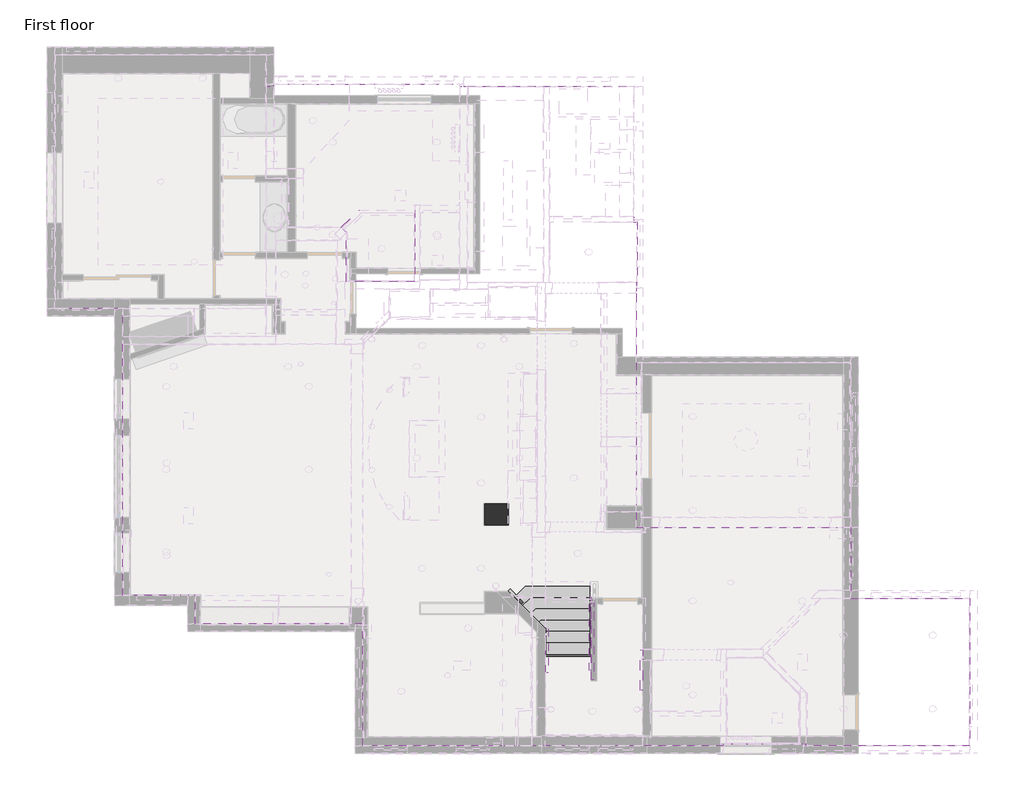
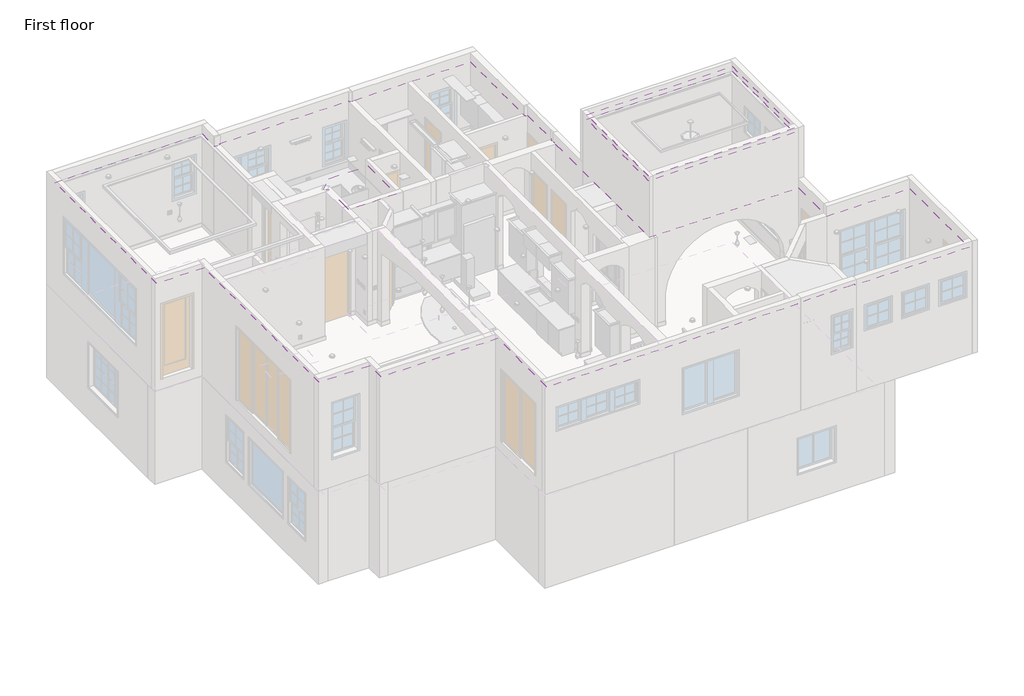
# One storey, part 10 of 14: 5 railings, 4 coverings, 1 column, 1 stair flight.
"""IFC4 building model written with IfcOpenShell, lengths in millimetres."""

from ifc_helpers import new_model, si_unit, frame, origin, place, context, project, spatial, polyline, circle_curve, outline, extrude, faceted_brep, transform, mapped, element, save
from ifc_brep_helpers import plane_surface, revolved_surface, advanced_brep
from components import railing_4_8abb609a, railing_4_2_3586e14e, railing_4_2_93178abc, railing_4_3_2b835bbb, stair_flight_4c4e7644

model = new_model("IFC4")

# Units and contexts
model_context = context("Model", 3, world=origin())
ifc_project = project(units=[si_unit("LENGTHUNIT", "METRE", prefix="MILLI")], contexts=[model_context])

# Site, building, storey
site = spatial("IfcSite", under=ifc_project)
building = spatial("IfcBuilding", under=site)
storey = spatial("IfcBuildingStorey", under=building, Name="First floor", Elevation=0.0)

# Column
placement = place(None, origin())
element("IfcColumn", 1, ObjectType="M_Rectangular Column : 475 x 610mm", at=placement, inside=storey, context=model_context, shape_type="Brep", body=[
    faceted_brep([(3302.0, 5397.5, 2565.4), (2794.0, 5397.5, 2565.4), (2794.0, 4940.3, 2565.4), (3302.0, 4940.3, 2565.4), (3302.0, 5397.5, 0.0), (3302.0, 4940.3, 0.0), (2794.0, 4940.3, 0.0), (2794.0, 5397.5, 0.0), (3302.0, 5397.5, 127.0), (2794.0, 5397.5, 127.0), (2794.0, 4940.3, 127.0), (3302.0, 4940.3, 127.0)], [[[0, 1, 2, 3]], [[4, 5, 6, 7]], [[1, 0, 8, 4, 7, 9]], [[2, 1, 9, 7, 6, 10]], [[3, 2, 10, 6, 5, 11]], [[0, 3, 11, 5, 4, 8]]]),
])

# Coverings
element("IfcCovering", 2, ObjectType="Ceiling_12\"", at=placement, inside=storey, context=model_context, shape_type="AdvancedBrep", body=[
    advanced_brep(
    [(-1924.05, 15113.0, 6604.0), (-6496.05, 15113.0, 6604.0), (-6496.05, 9626.6, 6604.0), (-5029.2, 9626.6, 6604.0), (-5029.2, 3416.3, 6604.0), (-3454.4, 3416.3, 6604.0), (-3454.4, 2806.7, 6604.0), (165.1, 2806.7, 6604.0), (165.1, 165.1, 6604.0), (7956.55, 165.1, 6604.0), (7956.55, 203.2, 6604.0), (9683.75, 203.2, 6604.0), (9753.6, 203.2, 6604.0), (9753.6, 165.1, 6604.0), (13284.2, 165.1, 6604.0), (13284.2, 3359.15, 6604.0), (10706.1, 3359.15, 6604.0), (10706.1, 4889.5001027, 6604.0), (6070.5999991, 4889.5001027, 6604.0), (6070.6, 8458.2, 6604.0), (6070.6, 10064.6447939, 6604.0), (6070.6, 10185.2947939, 6604.0), (6096.0, 10185.2947939, 6604.0), (6096.0, 11493.3947939, 6604.0), (6019.8, 11493.3947939, 6604.0), (6019.8, 11550.5447939, 6604.0), (6019.8, 14427.0947939, 6604.0), (2343.15, 14427.0947939, 6604.0), (2260.6, 14427.0947939, 6604.0), (2260.6, 14477.8947939, 6604.0), (-1758.95, 14477.8947939, 6604.0), (-1758.95, 14427.0947939, 6604.0), (-1924.05, 14427.0947939, 6604.0), (-1924.05, 14477.8947939, 6604.0), (5083.0421751, 12508.6027641, 6604.0), (4778.2421751, 12508.6027641, 6604.0), (4778.2421751, 13727.8027641, 6604.0), (5083.0421751, 13727.8027641, 6604.0), (-6496.05, 15113.0, 6299.2), (-1924.05, 15113.0, 6299.2), (-1924.05, 14427.0947939, 6299.2), (-1758.95, 14427.0947939, 6299.2), (-1758.95, 14477.8947939, 6299.2), (2260.6, 14477.8947939, 6299.2), (2260.6, 14427.0947939, 6299.2), (2343.15, 14427.0947939, 6299.2), (2425.7, 14427.0947939, 6299.2), (6019.8, 14427.0947939, 6299.2), (6019.8, 11607.6947939, 6299.2), (6019.8, 11550.5447939, 6299.2), (6019.8, 11493.3947939, 6299.2), (6096.0, 11493.3947939, 6299.2), (6096.0, 10185.2947939, 6299.2), (6070.6, 10185.2947939, 6299.2), (6070.6, 10064.6447939, 6299.2), (6070.6, 9943.9947939, 6299.2), (6070.6, 8458.2, 6299.2), (6070.5999991, 4889.5001027, 6299.2), (10706.1, 4889.5001027, 6299.2), (10706.1, 3359.15, 6299.2), (13284.2, 3359.15, 6299.2), (13284.2, 165.1, 6299.2), (9753.6, 165.1, 6299.2), (9753.6, 203.2, 6299.2), (9683.75, 203.2, 6299.2), (9613.9, 203.2, 6299.2), (7956.55, 203.2, 6299.2), (7956.55, 165.1, 6299.2), (165.1, 165.1, 6299.2), (165.1, 2806.7, 6299.2), (-3454.4, 2806.7, 6299.2), (-3454.4, 3416.3, 6299.2), (-5029.2, 3416.3, 6299.2), (-5029.2, 9626.6, 6299.2), (-6496.05, 9626.6, 6299.2), (4778.2421751, 12508.6027641, 6299.2), (5083.0421751, 12508.6027641, 6299.2), (5083.0421751, 13727.8027641, 6299.2), (4778.2421751, 13727.8027641, 6299.2), (5181.6, 914.4009876, 6299.2), (5054.6, 914.3990124, 6299.2), (7213.6, 1460.4999136, 6299.2), (7086.6, 1460.5000864, 6299.2), (10617.2, 965.1995088, 6299.2), (10490.2, 965.2004912, 6299.2), (10490.2, 2559.05, 6299.2), (10617.2, 2559.05, 6299.2), (12420.6, 2559.05, 6299.2), (12547.6, 2559.05, 6299.2), (4978.4, 10845.6947939, 6299.2), (5105.4, 10845.6947939, 6299.2), (12420.6, 965.2, 6299.2), (12547.6, 965.2, 6299.2), (6654.8, 4432.3001027, 6299.2), (6654.8, 2755.9, 6299.2), (8697.4455906, 2755.9, 6299.2), (9639.3, 3703.1577939, 6299.2), (9639.3, 4432.3001027, 6299.2), (5105.4, 5219.5947939, 6299.2), (5105.4, 9728.0947939, 6299.2), (4318.0, 9728.0947939, 6299.2), (4318.0, 5219.5947939, 6299.2), (-5556.25, 14173.2, 6299.2), (-5556.25, 10566.4, 6299.2), (-2863.85, 10566.4, 6299.2), (-2863.85, 14173.2, 6299.2), (-5060.95, 14605.0, 6299.2), (-5187.95, 14605.0, 6299.2), (-3232.15, 14605.0, 6299.2), (-3359.15, 14605.0, 6299.2), (-857.25, 13690.4947939, 6299.2), (-984.25, 13690.4947939, 6299.2), (1841.5, 11176.0, 6299.2), (1714.5, 11176.0, 6299.2), (3721.1, 11353.6947939, 6299.2), (3238.5, 11353.6947939, 6299.2), (3238.5, 10591.6947939, 6299.2), (3721.1, 10591.6947939, 6299.2), (4778.2421751, 12508.6027641, 6591.3), (5083.0421751, 12508.6027641, 6591.3), (5083.0421751, 13727.8027641, 6591.3), (4778.2421751, 13727.8027641, 6591.3), (5054.6, 914.3990124, 6337.3), (5181.6, 914.4009876, 6337.3), (7086.6, 1460.5000864, 6337.3), (7213.6, 1460.4999136, 6337.3), (10490.2, 965.2004912, 6337.3), (10617.2, 965.1995088, 6337.3), (10617.2, 2559.05, 6337.3), (10490.2, 2559.05, 6337.3), (12547.6, 2559.05, 6337.3), (12420.6, 2559.05, 6337.3), (5105.4, 10845.6947939, 6337.3), (4978.4, 10845.6947939, 6337.3), (12547.6, 965.2, 6337.3), (12420.6, 965.2, 6337.3), (6654.8, 4432.3001027, 6451.6), (9639.3, 4432.3001027, 6451.6), (9639.3, 3703.1577939, 6451.6), (8697.4455906, 2755.9, 6451.6), (6654.8, 2755.9, 6451.6), (5105.4, 5219.5947939, 6451.6), (4318.0, 5219.5947939, 6451.6), (4318.0, 9728.0947939, 6451.6), (5105.4, 9728.0947939, 6451.6), (4660.8951375, 5956.2153351, 6451.6), (4787.8951375, 5956.2116994, 6451.6), (4660.8867747, 8864.4849777, 6451.6), (4787.8867746, 8864.481342, 6451.6), (4787.8951375, 5956.2116994, 6489.7), (4660.8951375, 5956.2153351, 6489.7), (4787.8867746, 8864.481342, 6489.7), (4660.8867747, 8864.4849777, 6489.7), (-5556.25, 14173.2, 6451.6), (-2863.85, 14173.2, 6451.6), (-2863.85, 10566.4, 6451.6), (-5556.25, 10566.4, 6451.6), (-5187.95, 14605.0, 6337.3), (-5060.95, 14605.0, 6337.3), (-3359.15, 14605.0, 6337.3), (-3232.15, 14605.0, 6337.3), (-984.25, 13690.4947939, 6337.3), (-857.25, 13690.4947939, 6337.3), (1714.5, 11176.0, 6337.3), (1841.5, 11176.0, 6337.3), (3238.5, 11353.6947939, 6400.8), (3721.1, 11353.6947939, 6400.8), (3721.1, 10591.6947939, 6400.8), (3238.5, 10591.6947939, 6400.8)],
    [
        (0, 1),
        (1, 2),
        (2, 3),
        (3, 4),
        (4, 5),
        (5, 6),
        (6, 7),
        (7, 8),
        (8, 9),
        (9, 10),
        (10, 11),
        (11, 12),
        (12, 13),
        (13, 14),
        (14, 15),
        (15, 16),
        (16, 17),
        (17, 18),
        (18, 19),
        (19, 20),
        (20, 21),
        (21, 22),
        (22, 23),
        (23, 24),
        (24, 25),
        (25, 26),
        (26, 27),
        (27, 28),
        (28, 29),
        (29, 30),
        (30, 31),
        (31, 32),
        (32, 33),
        (33, 0),
        (34, 35),
        (35, 36),
        (36, 37),
        (37, 34),
        (38, 39),
        (39, 40),
        (40, 41),
        (41, 42),
        (42, 43),
        (43, 44),
        (44, 45),
        (45, 46),
        (46, 47),
        (47, 48),
        (48, 49),
        (49, 50),
        (50, 51),
        (51, 52),
        (52, 53),
        (53, 54),
        (54, 55),
        (55, 56),
        (56, 57),
        (57, 58),
        (58, 59),
        (59, 60),
        (60, 61),
        (61, 62),
        (62, 63),
        (63, 64),
        (64, 65),
        (65, 66),
        (66, 67),
        (67, 68),
        (68, 69),
        (69, 70),
        (70, 71),
        (71, 72),
        (72, 73),
        (73, 74),
        (74, 38),
        (75, 76),
        (76, 77),
        (77, 78),
        (78, 75),
        (79, 80, circle_curve(frame((5118.1, 914.4, 6299.2), z_axis=(0.0, 0.0, 1.0), x_axis=(0.999999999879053, 1.555294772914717e-05, 0.0)), 63.5)),
        (80, 79, circle_curve(frame((5118.1, 914.4, 6299.2), z_axis=(0.0, 0.0, 1.0), x_axis=(0.999999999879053, 1.555294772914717e-05, 0.0)), 63.5)),
        (81, 82, circle_curve(frame((7150.1, 1460.5, 6299.2), z_axis=(0.0, 0.0, 1.0), x_axis=(0.9999999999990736, -1.3611479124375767e-06, 0.0)), 63.5)),
        (82, 81, circle_curve(frame((7150.1, 1460.5, 6299.2), z_axis=(0.0, 0.0, 1.0), x_axis=(0.9999999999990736, -1.3611479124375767e-06, 0.0)), 63.5)),
        (83, 84, circle_curve(frame((10553.7, 965.2, 6299.2), z_axis=(0.0, 0.0, 1.0), x_axis=(0.9999999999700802, -7.735631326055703e-06, 0.0)), 63.5)),
        (84, 83, circle_curve(frame((10553.7, 965.2, 6299.2), z_axis=(0.0, 0.0, 1.0), x_axis=(0.9999999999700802, -7.735631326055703e-06, 0.0)), 63.5)),
        (85, 86, circle_curve(frame((10553.7, 2559.05, 6299.2), z_axis=(0.0, 0.0, 1.0), x_axis=(-1.0, 0.0, 0.0)), 63.5)),
        (86, 85, circle_curve(frame((10553.7, 2559.05, 6299.2), z_axis=(0.0, 0.0, 1.0), x_axis=(-1.0, 0.0, 0.0)), 63.5)),
        (87, 88, circle_curve(frame((12484.1, 2559.05, 6299.2), z_axis=(0.0, 0.0, 1.0), x_axis=(-1.0, 0.0, 0.0)), 63.5)),
        (88, 87, circle_curve(frame((12484.1, 2559.05, 6299.2), z_axis=(0.0, 0.0, 1.0), x_axis=(-1.0, 0.0, 0.0)), 63.5)),
        (89, 90, circle_curve(frame((5041.9, 10845.6947939, 6299.2), z_axis=(0.0, 0.0, 1.0), x_axis=(-1.0, 0.0, 0.0)), 63.5)),
        (90, 89, circle_curve(frame((5041.9, 10845.6947939, 6299.2), z_axis=(0.0, 0.0, 1.0), x_axis=(-1.0, 0.0, 0.0)), 63.5)),
        (91, 92, circle_curve(frame((12484.1, 965.2, 6299.2), z_axis=(0.0, 0.0, 1.0), x_axis=(-1.0, 0.0, 0.0)), 63.5)),
        (92, 91, circle_curve(frame((12484.1, 965.2, 6299.2), z_axis=(0.0, 0.0, 1.0), x_axis=(-1.0, 0.0, 0.0)), 63.5)),
        (93, 94),
        (94, 95),
        (95, 96),
        (96, 97),
        (97, 93),
        (98, 99),
        (99, 100),
        (100, 101),
        (101, 98),
        (102, 103),
        (103, 104),
        (104, 105),
        (105, 102),
        (106, 107, circle_curve(frame((-5124.45, 14605.0, 6299.2), z_axis=(0.0, 0.0, 1.0), x_axis=(1.0, 0.0, 0.0)), 63.5)),
        (107, 106, circle_curve(frame((-5124.45, 14605.0, 6299.2), z_axis=(0.0, 0.0, 1.0), x_axis=(1.0, 0.0, 0.0)), 63.5)),
        (108, 109, circle_curve(frame((-3295.65, 14605.0, 6299.2), z_axis=(0.0, 0.0, 1.0), x_axis=(1.0, 0.0, 0.0)), 63.5)),
        (109, 108, circle_curve(frame((-3295.65, 14605.0, 6299.2), z_axis=(0.0, 0.0, 1.0), x_axis=(1.0, 0.0, 0.0)), 63.5)),
        (110, 111, circle_curve(frame((-920.75, 13690.4947939, 6299.2), z_axis=(0.0, 0.0, 1.0), x_axis=(1.0, 0.0, 0.0)), 63.5)),
        (111, 110, circle_curve(frame((-920.75, 13690.4947939, 6299.2), z_axis=(0.0, 0.0, 1.0), x_axis=(1.0, 0.0, 0.0)), 63.5)),
        (112, 113, circle_curve(frame((1778.0, 11176.0, 6299.2), z_axis=(0.0, 0.0, 1.0), x_axis=(1.0, 0.0, 0.0)), 63.5)),
        (113, 112, circle_curve(frame((1778.0, 11176.0, 6299.2), z_axis=(0.0, 0.0, 1.0), x_axis=(1.0, 0.0, 0.0)), 63.5)),
        (114, 115),
        (115, 116),
        (116, 117),
        (117, 114),
        (0, 39),
        (38, 1),
        (74, 2),
        (73, 3),
        (72, 4),
        (71, 5),
        (70, 6),
        (69, 7),
        (68, 8),
        (67, 9),
        (66, 10),
        (63, 12),
        (17, 58),
        (57, 18),
        (56, 19),
        (53, 21),
        (52, 22),
        (51, 23),
        (50, 24),
        (47, 26),
        (31, 41),
        (40, 32),
        (62, 13),
        (61, 14),
        (60, 15),
        (59, 16),
        (75, 118),
        (118, 35),
        (34, 119),
        (119, 76),
        (37, 120),
        (120, 77),
        (36, 121),
        (121, 78),
        (122, 123, circle_curve(frame((5118.1, 914.4, 6337.3), z_axis=(0.0, 0.0, -1.0), x_axis=(0.999999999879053, 1.555294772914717e-05, 0.0)), 63.5)),
        (123, 122, circle_curve(frame((5118.1, 914.4, 6337.3), z_axis=(0.0, 0.0, -1.0), x_axis=(0.999999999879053, 1.555294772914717e-05, 0.0)), 63.5)),
        (122, 80),
        (79, 123),
        (124, 125, circle_curve(frame((7150.1, 1460.5, 6337.3), z_axis=(0.0, 0.0, -1.0), x_axis=(0.9999999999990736, -1.3611479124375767e-06, 0.0)), 63.5)),
        (125, 124, circle_curve(frame((7150.1, 1460.5, 6337.3), z_axis=(0.0, 0.0, -1.0), x_axis=(0.9999999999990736, -1.3611479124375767e-06, 0.0)), 63.5)),
        (124, 82),
        (81, 125),
        (126, 127, circle_curve(frame((10553.7, 965.2, 6337.3), z_axis=(0.0, 0.0, -1.0), x_axis=(0.9999999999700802, -7.735631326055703e-06, 0.0)), 63.5)),
        (127, 126, circle_curve(frame((10553.7, 965.2, 6337.3), z_axis=(0.0, 0.0, -1.0), x_axis=(0.9999999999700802, -7.735631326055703e-06, 0.0)), 63.5)),
        (126, 84),
        (83, 127),
        (128, 129, circle_curve(frame((10553.7, 2559.05, 6337.3), z_axis=(0.0, 0.0, -1.0), x_axis=(-1.0, 0.0, 0.0)), 63.5)),
        (129, 128, circle_curve(frame((10553.7, 2559.05, 6337.3), z_axis=(0.0, 0.0, -1.0), x_axis=(-1.0, 0.0, 0.0)), 63.5)),
        (128, 86),
        (85, 129),
        (130, 131, circle_curve(frame((12484.1, 2559.05, 6337.3), z_axis=(0.0, 0.0, -1.0), x_axis=(-1.0, 0.0, 0.0)), 63.5)),
        (131, 130, circle_curve(frame((12484.1, 2559.05, 6337.3), z_axis=(0.0, 0.0, -1.0), x_axis=(-1.0, 0.0, 0.0)), 63.5)),
        (130, 88),
        (87, 131),
        (132, 133, circle_curve(frame((5041.9, 10845.6947939, 6337.3), z_axis=(0.0, 0.0, -1.0), x_axis=(-1.0, 0.0, 0.0)), 63.5)),
        (133, 132, circle_curve(frame((5041.9, 10845.6947939, 6337.3), z_axis=(0.0, 0.0, -1.0), x_axis=(-1.0, 0.0, 0.0)), 63.5)),
        (132, 90),
        (89, 133),
        (134, 135, circle_curve(frame((12484.1, 965.2, 6337.3), z_axis=(0.0, 0.0, -1.0), x_axis=(-1.0, 0.0, 0.0)), 63.5)),
        (135, 134, circle_curve(frame((12484.1, 965.2, 6337.3), z_axis=(0.0, 0.0, -1.0), x_axis=(-1.0, 0.0, 0.0)), 63.5)),
        (134, 92),
        (91, 135),
        (136, 137),
        (137, 138),
        (138, 139),
        (139, 140),
        (140, 136),
        (140, 94),
        (93, 136),
        (139, 95),
        (138, 96),
        (137, 97),
        (141, 142),
        (142, 143),
        (143, 144),
        (144, 141),
        (145, 146, circle_curve(frame((4724.3951375, 5956.2135172, 6451.6), z_axis=(0.0, 0.0, 1.0), x_axis=(-0.9999999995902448, 2.8627094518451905e-05, 0.0)), 63.5)),
        (146, 145, circle_curve(frame((4724.3951375, 5956.2135172, 6451.6), z_axis=(0.0, 0.0, 1.0), x_axis=(-0.9999999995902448, 2.8627094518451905e-05, 0.0)), 63.5)),
        (147, 148, circle_curve(frame((4724.3867747, 8864.4831598, 6451.6), z_axis=(0.0, 0.0, 1.0), x_axis=(-0.9999999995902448, 2.8627094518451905e-05, 0.0)), 63.5)),
        (148, 147, circle_curve(frame((4724.3867747, 8864.4831598, 6451.6), z_axis=(0.0, 0.0, 1.0), x_axis=(-0.9999999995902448, 2.8627094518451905e-05, 0.0)), 63.5)),
        (144, 99),
        (98, 141),
        (143, 100),
        (142, 101),
        (149, 150, circle_curve(frame((4724.3951375, 5956.2135172, 6489.7), z_axis=(0.0, 0.0, -1.0), x_axis=(-0.9999999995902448, 2.8627094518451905e-05, 0.0)), 63.5)),
        (150, 149, circle_curve(frame((4724.3951375, 5956.2135172, 6489.7), z_axis=(0.0, 0.0, -1.0), x_axis=(-0.9999999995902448, 2.8627094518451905e-05, 0.0)), 63.5)),
        (149, 146),
        (145, 150),
        (151, 152, circle_curve(frame((4724.3867747, 8864.4831598, 6489.7), z_axis=(0.0, 0.0, -1.0), x_axis=(-0.9999999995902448, 2.8627094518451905e-05, 0.0)), 63.5)),
        (152, 151, circle_curve(frame((4724.3867747, 8864.4831598, 6489.7), z_axis=(0.0, 0.0, -1.0), x_axis=(-0.9999999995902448, 2.8627094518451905e-05, 0.0)), 63.5)),
        (151, 148),
        (147, 152),
        (153, 154),
        (154, 155),
        (155, 156),
        (156, 153),
        (156, 103),
        (102, 153),
        (155, 104),
        (154, 105),
        (157, 158, circle_curve(frame((-5124.45, 14605.0, 6337.3), z_axis=(0.0, 0.0, -1.0), x_axis=(1.0, 0.0, 0.0)), 63.5)),
        (158, 157, circle_curve(frame((-5124.45, 14605.0, 6337.3), z_axis=(0.0, 0.0, -1.0), x_axis=(1.0, 0.0, 0.0)), 63.5)),
        (157, 107),
        (106, 158),
        (159, 160, circle_curve(frame((-3295.65, 14605.0, 6337.3), z_axis=(0.0, 0.0, -1.0), x_axis=(1.0, 0.0, 0.0)), 63.5)),
        (160, 159, circle_curve(frame((-3295.65, 14605.0, 6337.3), z_axis=(0.0, 0.0, -1.0), x_axis=(1.0, 0.0, 0.0)), 63.5)),
        (159, 109),
        (108, 160),
        (161, 162, circle_curve(frame((-920.75, 13690.4947939, 6337.3), z_axis=(0.0, 0.0, -1.0), x_axis=(1.0, 0.0, 0.0)), 63.5)),
        (162, 161, circle_curve(frame((-920.75, 13690.4947939, 6337.3), z_axis=(0.0, 0.0, -1.0), x_axis=(1.0, 0.0, 0.0)), 63.5)),
        (161, 111),
        (110, 162),
        (163, 164, circle_curve(frame((1778.0, 11176.0, 6337.3), z_axis=(0.0, 0.0, -1.0), x_axis=(1.0, 0.0, 0.0)), 63.5)),
        (164, 163, circle_curve(frame((1778.0, 11176.0, 6337.3), z_axis=(0.0, 0.0, -1.0), x_axis=(1.0, 0.0, 0.0)), 63.5)),
        (163, 113),
        (112, 164),
        (165, 166),
        (166, 167),
        (167, 168),
        (168, 165),
        (165, 115),
        (114, 166),
        (117, 167),
        (116, 168),
        (44, 28),
        (43, 29),
        (42, 30),
    ],
    [
        plane_surface(frame((-6496.05, 15113.0, 6604.0), z_axis=(0.0, 0.0, 1.0), x_axis=(-1.0, 0.0, 0.0))),
        plane_surface(frame((-6496.05, 15113.0, 6299.2), z_axis=(0.0, 0.0, -1.0), x_axis=(1.0, 0.0, 0.0))),
        plane_surface(frame((-1924.05, 15113.0, 6604.0), z_axis=(0.0, 1.0, 0.0), x_axis=(0.0, 0.0, -1.0))),
        plane_surface(frame((-6496.05, 15113.0, 6604.0), z_axis=(-1.0, 0.0, 0.0), x_axis=(0.0, 0.0, -1.0))),
        plane_surface(frame((-6496.05, 9626.6, 6604.0), z_axis=(0.0, -1.0, 0.0), x_axis=(0.0, 0.0, -1.0))),
        plane_surface(frame((-5029.2, 9626.6, 6604.0), z_axis=(-1.0, 0.0, 0.0), x_axis=(0.0, 0.0, -1.0))),
        plane_surface(frame((-5029.2, 3416.3, 6604.0), z_axis=(0.0, -1.0, 0.0), x_axis=(0.0, 0.0, -1.0))),
        plane_surface(frame((-3454.4, 3416.3, 6604.0), z_axis=(-1.0, 0.0, 0.0), x_axis=(0.0, 0.0, -1.0))),
        plane_surface(frame((-3454.4, 2806.7, 6604.0), z_axis=(0.0, -1.0, 0.0), x_axis=(0.0, 0.0, -1.0))),
        plane_surface(frame((165.1, 2806.7, 6604.0), z_axis=(-1.0, 0.0, 0.0), x_axis=(0.0, 0.0, -1.0))),
        plane_surface(frame((165.1, 165.1, 6604.0), z_axis=(0.0, -1.0, 0.0), x_axis=(0.0, 0.0, -1.0))),
        plane_surface(frame((7956.55, 165.1, 6604.0), z_axis=(1.0, 0.0, 0.0), x_axis=(0.0, 0.0, -1.0))),
        plane_surface(frame((7956.55, 203.2, 6604.0), z_axis=(0.0, -1.0, 0.0), x_axis=(0.0, 0.0, -1.0))),
        plane_surface(frame((10706.1, 4889.5001027, 6604.0), z_axis=(0.0, 1.0, 0.0), x_axis=(0.0, 0.0, -1.0))),
        plane_surface(frame((6070.5999991, 4889.5001027, 6604.0), z_axis=(1.0, -2.621101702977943e-10, 0.0), x_axis=(0.0, 0.0, -1.0))),
        plane_surface(frame((6070.6, 8458.2, 6604.0), z_axis=(1.0, 0.0, 0.0), x_axis=(0.0, 0.0, -1.0))),
        plane_surface(frame((6070.6, 10185.2947939, 6604.0), z_axis=(0.0, -1.0, 0.0), x_axis=(0.0, 0.0, -1.0))),
        plane_surface(frame((6096.0, 10185.2947939, 6604.0), z_axis=(1.0, 0.0, 0.0), x_axis=(0.0, 0.0, -1.0))),
        plane_surface(frame((6096.0, 11493.3947939, 6604.0), z_axis=(0.0, 1.0, 0.0), x_axis=(0.0, 0.0, -1.0))),
        plane_surface(frame((6019.8, 11493.3947939, 6604.0), z_axis=(1.0, 0.0, 0.0), x_axis=(0.0, 0.0, -1.0))),
        plane_surface(frame((-1758.95, 14427.0947939, 6604.0), z_axis=(0.0, 1.0, 0.0), x_axis=(0.0, 0.0, -1.0))),
        plane_surface(frame((-1924.05, 14427.0947939, 6604.0), z_axis=(1.0, 0.0, 0.0), x_axis=(0.0, 0.0, -1.0))),
        plane_surface(frame((9753.6, 203.2, 6604.0), z_axis=(-1.0, 0.0, 0.0), x_axis=(0.0, 0.0, -1.0))),
        plane_surface(frame((9753.6, 165.1, 6604.0), z_axis=(0.0, -1.0, 0.0), x_axis=(0.0, 0.0, -1.0))),
        plane_surface(frame((13284.2, 165.1, 6604.0), z_axis=(1.0, 0.0, 0.0), x_axis=(0.0, 0.0, -1.0))),
        plane_surface(frame((13284.2, 3359.15, 6604.0), z_axis=(0.0, 1.0, 0.0), x_axis=(0.0, 0.0, -1.0))),
        plane_surface(frame((10706.1, 3359.15, 6604.0), z_axis=(1.0, 0.0, 0.0), x_axis=(0.0, 0.0, -1.0))),
        plane_surface(frame((4778.2421751, 12508.6027641, 6604.0), z_axis=(0.0, 1.0, 0.0), x_axis=(0.0, 0.0, -1.0))),
        plane_surface(frame((5083.0421751, 12508.6027641, 6604.0), z_axis=(-1.0, 0.0, 0.0), x_axis=(0.0, 0.0, -1.0))),
        plane_surface(frame((5083.0421751, 13727.8027641, 6604.0), z_axis=(0.0, -1.0, 0.0), x_axis=(0.0, 0.0, -1.0))),
        plane_surface(frame((4778.2421751, 13727.8027641, 6604.0), z_axis=(1.0, 0.0, 0.0), x_axis=(0.0, 0.0, -1.0))),
        plane_surface(frame((5181.6, 914.4009876, 6337.3), z_axis=(0.0, 0.0, -1.0000000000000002), x_axis=(-1.555294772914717e-05, 0.999999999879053, 0.0))),
        revolved_surface(polyline([(5181.599999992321, 914.4009876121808, 6299.2), (5181.599999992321, 914.4009876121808, 6337.3)]), (5118.1, 914.4, 6337.3), (0.0, 0.0, -1.0)),
        plane_surface(frame((7213.6, 1460.4999136, 6337.3), z_axis=(0.0, 0.0, -1.0), x_axis=(1.3611479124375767e-06, 0.9999999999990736, 0.0))),
        revolved_surface(polyline([(7213.599999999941, 1460.4999135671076, 6299.2), (7213.599999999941, 1460.4999135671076, 6337.3)]), (7150.1, 1460.5, 6337.3), (0.0, 0.0, -1.0)),
        plane_surface(frame((10617.2, 965.1995088, 6337.3), z_axis=(0.0, 0.0, -1.0000000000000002), x_axis=(7.735631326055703e-06, 0.9999999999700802, 0.0))),
        revolved_surface(polyline([(10617.199999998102, 965.1995087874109, 6299.2), (10617.199999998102, 965.1995087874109, 6337.3)]), (10553.7, 965.2, 6337.3), (0.0, 0.0, -1.0)),
        plane_surface(frame((10490.2, 2559.05, 6337.3), z_axis=(0.0, 0.0, -1.0), x_axis=(0.0, -1.0, 0.0))),
        revolved_surface(polyline([(10490.2, 2559.05, 6299.2), (10490.2, 2559.05, 6337.3)]), (10553.7, 2559.05, 6337.3), (0.0, 0.0, -1.0)),
        plane_surface(frame((12420.6, 2559.05, 6337.3), z_axis=(0.0, 0.0, -1.0), x_axis=(0.0, -1.0, 0.0))),
        revolved_surface(polyline([(12420.6, 2559.05, 6299.2), (12420.6, 2559.05, 6337.3)]), (12484.1, 2559.05, 6337.3), (0.0, 0.0, -1.0)),
        plane_surface(frame((4978.4, 10845.6947939, 6337.3), z_axis=(0.0, 0.0, -1.0), x_axis=(0.0, -1.0, 0.0))),
        revolved_surface(polyline([(4978.4, 10845.6947939, 6299.2), (4978.4, 10845.6947939, 6337.3)]), (5041.9, 10845.6947939, 6337.3), (0.0, 0.0, -1.0)),
        plane_surface(frame((12420.6, 965.2, 6337.3), z_axis=(0.0, 0.0, -1.0), x_axis=(0.0, -1.0, 0.0))),
        revolved_surface(polyline([(12420.6, 965.2, 6299.2), (12420.6, 965.2, 6337.3)]), (12484.1, 965.2, 6337.3), (0.0, 0.0, -1.0)),
        plane_surface(frame((6654.8, 2755.9, 6451.6), z_axis=(0.0, 0.0, -1.0), x_axis=(0.0, -1.0, 0.0))),
        plane_surface(frame((6654.8, 4432.3001027, 6451.6), z_axis=(1.0, 0.0, 0.0), x_axis=(0.0, 0.0, -1.0))),
        plane_surface(frame((6654.8, 2755.9, 6451.6), z_axis=(0.0, 1.0, 0.0), x_axis=(0.0, 0.0, -1.0))),
        plane_surface(frame((8697.4455906, 2755.9, 6451.6), z_axis=(-0.7091264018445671, 0.7050813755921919, 0.0), x_axis=(0.0, 0.0, -1.0))),
        plane_surface(frame((9639.3, 3703.1577939, 6451.6), z_axis=(-1.0, 0.0, 0.0), x_axis=(0.0, 0.0, -1.0))),
        plane_surface(frame((9639.3, 4432.3001027, 6451.6), z_axis=(0.0, -1.0, 0.0), x_axis=(0.0, 0.0, -1.0))),
        plane_surface(frame((5105.4, 9943.9947939, 6451.6), z_axis=(0.0, 0.0, -1.0), x_axis=(0.0, 1.0, 0.0))),
        plane_surface(frame((5105.4, 5219.5947939, 6451.6), z_axis=(-1.0, 0.0, 0.0), x_axis=(0.0, 0.0, -1.0))),
        plane_surface(frame((5105.4, 9728.0947939, 6451.6), z_axis=(0.0, -1.0, 0.0), x_axis=(0.0, 0.0, -1.0))),
        plane_surface(frame((4318.0, 9728.0947939, 6451.6), z_axis=(1.0, 0.0, 0.0), x_axis=(0.0, 0.0, -1.0))),
        plane_surface(frame((4318.0, 5219.5947939, 6451.6), z_axis=(0.0, 1.0, 0.0), x_axis=(0.0, 0.0, -1.0))),
        plane_surface(frame((4660.8951375, 5956.2153351, 6489.7), z_axis=(0.0, 0.0, -1.0), x_axis=(-2.8627094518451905e-05, -0.9999999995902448, 0.0))),
        revolved_surface(polyline([(4660.895137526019, 5956.215335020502, 6451.6), (4660.895137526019, 5956.215335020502, 6489.7)]), (4724.3951375, 5956.2135172, 6489.7), (0.0, 0.0, -1.0)),
        plane_surface(frame((4660.8867747, 8864.4849777, 6489.7), z_axis=(0.0, 0.0, -1.0), x_axis=(-2.8627094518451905e-05, -0.9999999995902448, 0.0))),
        revolved_surface(polyline([(4660.88677472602, 8864.484977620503, 6451.6), (4660.88677472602, 8864.484977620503, 6489.7)]), (4724.3867747, 8864.4831598, 6489.7), (0.0, 0.0, -1.0)),
        plane_surface(frame((-5556.25, 9626.6, 6451.6), z_axis=(0.0, 0.0, -1.0), x_axis=(0.0, -1.0, 0.0))),
        plane_surface(frame((-5556.25, 14173.2, 6451.6), z_axis=(1.0, 0.0, 0.0), x_axis=(0.0, 0.0, -1.0))),
        plane_surface(frame((-5556.25, 10566.4, 6451.6), z_axis=(0.0, 1.0, 0.0), x_axis=(0.0, 0.0, -1.0))),
        plane_surface(frame((-2863.85, 10566.4, 6451.6), z_axis=(-1.0, 0.0, 0.0), x_axis=(0.0, 0.0, -1.0))),
        plane_surface(frame((-2863.85, 14173.2, 6451.6), z_axis=(0.0, -1.0, 0.0), x_axis=(0.0, 0.0, -1.0))),
        plane_surface(frame((-5060.95, 14605.0, 6337.3), z_axis=(0.0, 0.0, -1.0), x_axis=(0.0, 1.0, 0.0))),
        revolved_surface(polyline([(-5060.95, 14605.0, 6299.2), (-5060.95, 14605.0, 6337.3)]), (-5124.45, 14605.0, 6337.3), (0.0, 0.0, -1.0)),
        plane_surface(frame((-3232.15, 14605.0, 6337.3), z_axis=(0.0, 0.0, -1.0), x_axis=(0.0, 1.0, 0.0))),
        revolved_surface(polyline([(-3232.15, 14605.0, 6299.2), (-3232.15, 14605.0, 6337.3)]), (-3295.65, 14605.0, 6337.3), (0.0, 0.0, -1.0)),
        plane_surface(frame((-857.25, 13690.4947939, 6337.3), z_axis=(0.0, 0.0, -1.0), x_axis=(0.0, 1.0, 0.0))),
        revolved_surface(polyline([(-857.25, 13690.4947939, 6299.2), (-857.25, 13690.4947939, 6337.3)]), (-920.75, 13690.4947939, 6337.3), (0.0, 0.0, -1.0)),
        plane_surface(frame((1841.5, 11176.0, 6337.3), z_axis=(0.0, 0.0, -1.0), x_axis=(0.0, 1.0, 0.0))),
        revolved_surface(polyline([(1841.5, 11176.0, 6299.2), (1841.5, 11176.0, 6337.3)]), (1778.0, 11176.0, 6337.3), (0.0, 0.0, -1.0)),
        plane_surface(frame((3721.1, 11353.6947939, 6400.8), z_axis=(0.0, 0.0, -1.0), x_axis=(-1.0, 0.0, 0.0))),
        plane_surface(frame((3238.5, 11353.6947939, 6299.2), z_axis=(0.0, -1.0, 0.0), x_axis=(0.0, 0.0, 1.0))),
        plane_surface(frame((3721.1, 11353.6947939, 6299.2), z_axis=(-1.0, 0.0, 0.0), x_axis=(0.0, 0.0, 1.0))),
        plane_surface(frame((3721.1, 10591.6947939, 6299.2), z_axis=(0.0, 1.0, 0.0), x_axis=(0.0, 0.0, 1.0))),
        plane_surface(frame((3238.5, 10591.6947939, 6299.2), z_axis=(1.0, 0.0, 0.0), x_axis=(0.0, 0.0, 1.0))),
        plane_surface(frame((6019.8, 14427.0947939, 6604.0), z_axis=(0.0, 1.0, 0.0), x_axis=(0.0, 0.0, -1.0))),
        plane_surface(frame((2260.6, 14427.0947939, 6604.0), z_axis=(1.0, 0.0, 0.0), x_axis=(0.0, 0.0, -1.0))),
        plane_surface(frame((2260.6, 14477.8947939, 6604.0), z_axis=(0.0, 1.0, 0.0), x_axis=(0.0, 0.0, -1.0))),
        plane_surface(frame((-1758.95, 14477.8947939, 6604.0), z_axis=(-1.0, 0.0, 0.0), x_axis=(0.0, 0.0, -1.0))),
    ],
    [
        (0, [[1, 2, 3, 4, 5, 6, 7, 8, 9, 10, 11, 12, 13, 14, 15, 16, 17, 18, 19, 20, 21, 22, 23, 24, 25, 26, 27, 28, 29, 30, 31, 32, 33, 34], [35, 36, 37, 38]]),
        (1, [[39, 40, 41, 42, 43, 44, 45, 46, 47, 48, 49, 50, 51, 52, 53, 54, 55, 56, 57, 58, 59, 60, 61, 62, 63, 64, 65, 66, 67, 68, 69, 70, 71, 72, 73, 74, 75], [76, 77, 78, 79], [80, 81], [82, 83], [84, 85], [86, 87], [88, 89], [90, 91], [92, 93], [94, 95, 96, 97, 98], [99, 100, 101, 102], [103, 104, 105, 106], [107, 108], [109, 110], [111, 112], [113, 114], [115, 116, 117, 118]]),
        (2, [[-1, 119, -39, 120]]),
        (3, [[-2, -120, -75, 121]]),
        (4, [[-3, -121, -74, 122]]),
        (5, [[-4, -122, -73, 123]]),
        (6, [[-5, -123, -72, 124]]),
        (7, [[-6, -124, -71, 125]]),
        (8, [[-7, -125, -70, 126]]),
        (9, [[-8, -126, -69, 127]]),
        (10, [[-9, -127, -68, 128]]),
        (11, [[-10, -128, -67, 129]]),
        (12, [[-12, -11, -129, -66, -65, -64, 130]]),
        (13, [[-18, 131, -58, 132]]),
        (14, [[-19, -132, -57, 133]]),
        (15, [[-21, -20, -133, -56, -55, -54, 134]]),
        (16, [[-22, -134, -53, 135]]),
        (17, [[-23, -135, -52, 136]]),
        (18, [[-24, -136, -51, 137]]),
        (19, [[-26, -25, -137, -50, -49, -48, 138]]),
        (20, [[-32, 139, -41, 140]]),
        (21, [[-34, -33, -140, -40, -119]]),
        (22, [[-13, -130, -63, 141]]),
        (23, [[-14, -141, -62, 142]]),
        (24, [[-15, -142, -61, 143]]),
        (25, [[-16, -143, -60, 144]]),
        (26, [[-17, -144, -59, -131]]),
        (27, [[145, 146, -35, 147, 148, -76]]),
        (28, [[-148, -147, -38, 149, 150, -77]]),
        (29, [[-150, -149, -37, 151, 152, -78]]),
        (30, [[-146, -145, -79, -152, -151, -36]]),
        (31, [[153, 154]]),
        (32, [[-153, 155, -80, 156]]),
        (32, [[-154, -156, -81, -155]]),
        (33, [[157, 158]]),
        (34, [[-157, 159, -82, 160]]),
        (34, [[-158, -160, -83, -159]]),
        (35, [[161, 162]]),
        (36, [[-161, 163, -84, 164]]),
        (36, [[-162, -164, -85, -163]]),
        (37, [[165, 166]]),
        (38, [[-165, 167, -86, 168]]),
        (38, [[-166, -168, -87, -167]]),
        (39, [[169, 170]]),
        (40, [[-169, 171, -88, 172]]),
        (40, [[-170, -172, -89, -171]]),
        (41, [[173, 174]]),
        (42, [[-173, 175, -90, 176]]),
        (42, [[-174, -176, -91, -175]]),
        (43, [[177, 178]]),
        (44, [[-177, 179, -92, 180]]),
        (44, [[-178, -180, -93, -179]]),
        (45, [[181, 182, 183, 184, 185]]),
        (46, [[-185, 186, -94, 187]]),
        (47, [[-184, 188, -95, -186]]),
        (48, [[-183, 189, -96, -188]]),
        (49, [[-182, 190, -97, -189]]),
        (50, [[-181, -187, -98, -190]]),
        (51, [[191, 192, 193, 194], [195, 196], [197, 198]]),
        (52, [[-194, 199, -99, 200]]),
        (53, [[-193, 201, -100, -199]]),
        (54, [[-192, 202, -101, -201]]),
        (55, [[-191, -200, -102, -202]]),
        (56, [[203, 204]]),
        (57, [[-203, 205, -195, 206]]),
        (57, [[-204, -206, -196, -205]]),
        (58, [[207, 208]]),
        (59, [[-207, 209, -197, 210]]),
        (59, [[-208, -210, -198, -209]]),
        (60, [[211, 212, 213, 214]]),
        (61, [[-214, 215, -103, 216]]),
        (62, [[-213, 217, -104, -215]]),
        (63, [[-212, 218, -105, -217]]),
        (64, [[-211, -216, -106, -218]]),
        (65, [[219, 220]]),
        (66, [[-219, 221, -107, 222]]),
        (66, [[-220, -222, -108, -221]]),
        (67, [[223, 224]]),
        (68, [[-223, 225, -109, 226]]),
        (68, [[-224, -226, -110, -225]]),
        (69, [[227, 228]]),
        (70, [[-227, 229, -111, 230]]),
        (70, [[-228, -230, -112, -229]]),
        (71, [[231, 232]]),
        (72, [[-231, 233, -113, 234]]),
        (72, [[-232, -234, -114, -233]]),
        (73, [[235, 236, 237, 238]]),
        (74, [[-235, 239, -115, 240]]),
        (75, [[-236, -240, -118, 241]]),
        (76, [[-237, -241, -117, 242]]),
        (77, [[-238, -242, -116, -239]]),
        (78, [[-28, -27, -138, -47, -46, -45, 243]]),
        (79, [[-29, -243, -44, 244]]),
        (80, [[-30, -244, -43, 245]]),
        (81, [[-31, -245, -42, -139]]),
    ],
),
])
element("IfcCovering", 3, ObjectType="Ceiling_5.25\"", at=placement, inside=storey, context=model_context, shape_type="AdvancedBrep", body=[
    advanced_brep(
    [(-190.5, 10210.8, 6299.2), (1282.7, 10210.8, 6299.2), (1282.7, 11747.5, 6299.2), (76.0550382, 11747.5, 6299.2), (-298.45, 11379.2, 6299.2), (-190.5, 11271.25, 6299.2), (1282.7, 10210.8, 6165.85), (-190.5, 10210.8, 6165.85), (-190.5, 11271.25, 6165.85), (-298.45, 11379.2, 6165.85), (76.0550382, 11747.5, 6165.85), (1282.7, 11747.5, 6165.85), (635.0, 10922.0, 6165.85), (508.0, 10922.0, 6165.85), (508.0, 10922.0, 6203.95), (635.0, 10922.0, 6203.95)],
    [
        (0, 1),
        (1, 2),
        (2, 3),
        (3, 4),
        (4, 5),
        (5, 0),
        (6, 7),
        (7, 8),
        (8, 9),
        (9, 10),
        (10, 11),
        (11, 6),
        (12, 13, circle_curve(frame((571.5, 10922.0, 6165.85), z_axis=(0.0, 0.0, 1.0), x_axis=(1.0, 0.0, 0.0)), 63.5)),
        (13, 12, circle_curve(frame((571.5, 10922.0, 6165.85), z_axis=(0.0, 0.0, 1.0), x_axis=(1.0, 0.0, 0.0)), 63.5)),
        (0, 7),
        (6, 1),
        (11, 2),
        (10, 3),
        (9, 4),
        (8, 5),
        (14, 15, circle_curve(frame((571.5, 10922.0, 6203.95), z_axis=(0.0, 0.0, -1.0), x_axis=(1.0, 0.0, 0.0)), 63.5)),
        (15, 14, circle_curve(frame((571.5, 10922.0, 6203.95), z_axis=(0.0, 0.0, -1.0), x_axis=(1.0, 0.0, 0.0)), 63.5)),
        (14, 13),
        (12, 15),
    ],
    [
        plane_surface(frame((-190.5, 10210.8, 6299.2), z_axis=(0.0, 0.0, 1.0), x_axis=(1.0, 0.0, 0.0))),
        plane_surface(frame((-190.5, 10210.8, 6165.85), z_axis=(0.0, 0.0, -1.0), x_axis=(-1.0, 0.0, 0.0))),
        plane_surface(frame((-190.5, 10210.8, 6299.2), z_axis=(0.0, -1.0, 0.0), x_axis=(0.0, 0.0, -1.0))),
        plane_surface(frame((1282.7, 10210.8, 6299.2), z_axis=(1.0, 0.0, 0.0), x_axis=(0.0, 0.0, -1.0))),
        plane_surface(frame((1282.7, 11747.5, 6299.2), z_axis=(0.0, 1.0, 0.0), x_axis=(0.0, 0.0, -1.0))),
        plane_surface(frame((76.0550382, 11747.5, 6299.2), z_axis=(-0.7011754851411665, 0.7129887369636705, 0.0), x_axis=(0.0, 0.0, -1.0))),
        plane_surface(frame((-298.45, 11379.2, 6299.2), z_axis=(-0.7071067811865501, -0.707106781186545, 0.0), x_axis=(0.0, 0.0, -1.0))),
        plane_surface(frame((-190.5, 11271.25, 6299.2), z_axis=(-1.0, 0.0, 0.0), x_axis=(0.0, 0.0, -1.0))),
        plane_surface(frame((635.0, 10922.0, 6203.95), z_axis=(0.0, 0.0, -1.0), x_axis=(0.0, 1.0, 0.0))),
        revolved_surface(polyline([(635.0, 10922.0, 6165.85), (635.0, 10922.0, 6203.95)]), (571.5, 10922.0, 6203.95), (0.0, 0.0, -1.0)),
    ],
    [
        (0, [[1, 2, 3, 4, 5, 6]]),
        (1, [[7, 8, 9, 10, 11, 12], [13, 14]]),
        (2, [[-1, 15, -7, 16]]),
        (3, [[-2, -16, -12, 17]]),
        (4, [[-3, -17, -11, 18]]),
        (5, [[-4, -18, -10, 19]]),
        (6, [[-5, -19, -9, 20]]),
        (7, [[-6, -20, -8, -15]]),
        (8, [[21, 22]]),
        (9, [[-21, 23, -13, 24]]),
        (9, [[-22, -24, -14, -23]]),
    ],
),
])
element("IfcCovering", 4, ObjectType="Ceiling_6\"", at=placement, inside=storey, context=model_context, shape_type="SweptSolid", body=[
    extrude(outline(polyline([(6184.8999991, 8458.2), (10706.1, 8458.2), (10706.1, 5105.4001027), (6184.8999991, 5105.4001027), (6184.8999991, 8458.2)]), holes=[polyline([(9817.1, 5994.4), (9817.1, 7569.2), (7073.9, 7569.2), (7073.9, 5994.4), (9817.1, 5994.4)])]), frame((0.0, 0.0, 7975.6), z_axis=(0.0, 0.0, 1.0), x_axis=(1.0, 0.0, 0.0)), (0.0, 0.0, 1.0), 152.4),
])
element("IfcCovering", 5, ObjectType="Ceiling_6\"", at=placement, inside=storey, context=model_context, shape_type="SweptSolid", body=[
    extrude(outline(polyline([(6184.8999991, 8458.2), (10706.1, 8458.2), (10706.1, 5105.4001027), (6184.8999991, 5105.4001027), (6184.8999991, 8458.2)])), frame((0.0, 0.0, 8128.0), z_axis=(0.0, 0.0, 1.0), x_axis=(1.0, 0.0, 0.0)), (0.0, 0.0, 1.0), 152.4),
])

# Railings
element("IfcRailing", 6, ObjectType="Railing_1.3 2", at=placement, inside=storey, context=model_context, shape_type="SolidModel", body=[
    faceted_brep([(5098.996836, 1588.4217932, 2818.0698147), (5098.996836, 1588.4217932, 2753.4293695), (5149.796836, 1588.4217932, 2753.4293695), (5149.796836, 1588.4217932, 2818.0698147), (5098.996836, 3058.8857212, 3975.1), (5098.996836, 3076.4754744, 3924.3), (5149.796836, 3076.4754744, 3924.3), (5149.796836, 3058.8857212, 3975.1), (5098.996836, 3264.8217932, 3975.1), (5149.796836, 3264.8217932, 3975.1), (5149.796836, 3264.8217932, 3924.3), (5098.996836, 3264.8217932, 3924.3)], [[[0, 1, 2, 3]], [[1, 0, 4, 5]], [[2, 1, 5, 6]], [[3, 2, 6, 7]], [[0, 3, 7, 4]], [[8, 9, 10, 11]], [[5, 4, 8, 11]], [[6, 5, 11, 10]], [[7, 6, 10, 9]], [[4, 7, 9, 8]]]),
    faceted_brep([(5149.796836, 1588.4217932, 1954.4698147), (5098.996836, 1588.4217932, 1954.4698147), (5098.996836, 1588.4217932, 1889.8293695), (5149.796836, 1588.4217932, 1889.8293695), (5149.796836, 3058.8857212, 3111.5), (5098.996836, 3058.8857212, 3111.5), (5098.996836, 3076.4754744, 3060.7), (5149.796836, 3076.4754744, 3060.7), (5149.796836, 3264.8217932, 3111.5), (5149.796836, 3264.8217932, 3060.7), (5098.996836, 3264.8217932, 3060.7), (5098.996836, 3264.8217932, 3111.5)], [[[0, 1, 2, 3]], [[1, 0, 4, 5]], [[2, 1, 5, 6]], [[3, 2, 6, 7]], [[0, 3, 7, 4]], [[8, 9, 10, 11]], [[5, 4, 8, 11]], [[6, 5, 11, 10]], [[7, 6, 10, 9]], [[4, 7, 9, 8]]]),
    extrude(outline(polyline([(5133.921836, 3204.4967932), (5114.871836, 3204.4967932), (5114.871836, 3223.5467932), (5133.921836, 3223.5467932), (5133.921836, 3204.4967932)])), frame((0.0, 0.0, 3111.5), z_axis=(0.0, 0.0, 1.0), x_axis=(1.0, 0.0, 0.0)), (0.0, 0.0, 1.0), 812.8),
    extrude(outline(polyline([(5133.921836, 3102.8967932), (5114.871836, 3102.8967932), (5114.871836, 3121.9467932), (5133.921836, 3121.9467932), (5133.921836, 3102.8967932)])), frame((0.0, 0.0, 3111.5), z_axis=(0.0, 0.0, 1.0), x_axis=(1.0, 0.0, 0.0)), (0.0, 0.0, 1.0), 812.8),
    extrude(outline(polyline([(3001.2967932, 3865.1458774), (3020.3467932, 3880.1353135), (3020.3467932, 3081.1757587), (3001.2967932, 3066.1863226), (3001.2967932, 3865.1458774)])), frame((5114.871836, 0.0, 0.0), z_axis=(1.0, 0.0, 0.0), x_axis=(0.0, 1.0, 0.0)), (0.0, 0.0, 1.0), 19.05),
    extrude(outline(polyline([(2899.6967932, 3785.2022184), (2918.7467932, 3800.1916545), (2918.7467932, 3001.2320997), (2899.6967932, 2986.2426636), (2899.6967932, 3785.2022184)])), frame((5114.871836, 0.0, 0.0), z_axis=(1.0, 0.0, 0.0), x_axis=(0.0, 1.0, 0.0)), (0.0, 0.0, 1.0), 19.05),
    extrude(outline(polyline([(2798.0967932, 3705.2585594), (2817.1467932, 3720.2479955), (2817.1467932, 2921.2884407), (2798.0967932, 2906.2990046), (2798.0967932, 3705.2585594)])), frame((5114.871836, 0.0, 0.0), z_axis=(1.0, 0.0, 0.0), x_axis=(0.0, 1.0, 0.0)), (0.0, 0.0, 1.0), 19.05),
    extrude(outline(polyline([(2696.4967932, 3625.3149004), (2715.5467932, 3640.3043365), (2715.5467932, 2841.3447817), (2696.4967932, 2826.3553456), (2696.4967932, 3625.3149004)])), frame((5114.871836, 0.0, 0.0), z_axis=(1.0, 0.0, 0.0), x_axis=(0.0, 1.0, 0.0)), (0.0, 0.0, 1.0), 19.05),
    extrude(outline(polyline([(2594.8967932, 3545.3712414), (2613.9467932, 3560.3606775), (2613.9467932, 2761.4011227), (2594.8967932, 2746.4116866), (2594.8967932, 3545.3712414)])), frame((5114.871836, 0.0, 0.0), z_axis=(1.0, 0.0, 0.0), x_axis=(0.0, 1.0, 0.0)), (0.0, 0.0, 1.0), 19.05),
    extrude(outline(polyline([(2493.2967932, 3465.4275824), (2512.3467932, 3480.4170185), (2512.3467932, 2681.4574637), (2493.2967932, 2666.4680276), (2493.2967932, 3465.4275824)])), frame((5114.871836, 0.0, 0.0), z_axis=(1.0, 0.0, 0.0), x_axis=(0.0, 1.0, 0.0)), (0.0, 0.0, 1.0), 19.05),
    extrude(outline(polyline([(2391.6967932, 3385.4839235), (2410.7467932, 3400.4733595), (2410.7467932, 2601.5138047), (2391.6967932, 2586.5243686), (2391.6967932, 3385.4839235)])), frame((5114.871836, 0.0, 0.0), z_axis=(1.0, 0.0, 0.0), x_axis=(0.0, 1.0, 0.0)), (0.0, 0.0, 1.0), 19.05),
    extrude(outline(polyline([(2290.0967932, 3305.5402645), (2309.1467932, 3320.5297005), (2309.1467932, 2521.5701457), (2290.0967932, 2506.5807096), (2290.0967932, 3305.5402645)])), frame((5114.871836, 0.0, 0.0), z_axis=(1.0, 0.0, 0.0), x_axis=(0.0, 1.0, 0.0)), (0.0, 0.0, 1.0), 19.05),
    extrude(outline(polyline([(2188.4967932, 3225.5966055), (2207.5467932, 3240.5860415), (2207.5467932, 2441.6264867), (2188.4967932, 2426.6370507), (2188.4967932, 3225.5966055)])), frame((5114.871836, 0.0, 0.0), z_axis=(1.0, 0.0, 0.0), x_axis=(0.0, 1.0, 0.0)), (0.0, 0.0, 1.0), 19.05),
    extrude(outline(polyline([(2086.8967932, 3145.6529465), (2105.9467932, 3160.6423825), (2105.9467932, 2361.6828277), (2086.8967932, 2346.6933917), (2086.8967932, 3145.6529465)])), frame((5114.871836, 0.0, 0.0), z_axis=(1.0, 0.0, 0.0), x_axis=(0.0, 1.0, 0.0)), (0.0, 0.0, 1.0), 19.05),
    extrude(outline(polyline([(1985.2967932, 3065.7092875), (2004.3467932, 3080.6987235), (2004.3467932, 2281.7391687), (1985.2967932, 2266.7497327), (1985.2967932, 3065.7092875)])), frame((5114.871836, 0.0, 0.0), z_axis=(1.0, 0.0, 0.0), x_axis=(0.0, 1.0, 0.0)), (0.0, 0.0, 1.0), 19.05),
    extrude(outline(polyline([(1883.6967932, 2985.7656285), (1902.7467932, 3000.7550646), (1902.7467932, 2201.7955097), (1883.6967932, 2186.8060737), (1883.6967932, 2985.7656285)])), frame((5114.871836, 0.0, 0.0), z_axis=(1.0, 0.0, 0.0), x_axis=(0.0, 1.0, 0.0)), (0.0, 0.0, 1.0), 19.05),
    extrude(outline(polyline([(1782.0967932, 2905.8219695), (1801.1467932, 2920.8114056), (1801.1467932, 2121.8518507), (1782.0967932, 2106.8624147), (1782.0967932, 2905.8219695)])), frame((5114.871836, 0.0, 0.0), z_axis=(1.0, 0.0, 0.0), x_axis=(0.0, 1.0, 0.0)), (0.0, 0.0, 1.0), 19.05),
    extrude(outline(polyline([(1680.4967932, 2825.8783105), (1699.5467932, 2840.8677466), (1699.5467932, 2041.9081918), (1680.4967932, 2026.9187557), (1680.4967932, 2825.8783105)])), frame((5114.871836, 0.0, 0.0), z_axis=(1.0, 0.0, 0.0), x_axis=(0.0, 1.0, 0.0)), (0.0, 0.0, 1.0), 19.05),
    extrude(outline(polyline([(5133.921836, 3245.7717932), (5114.871836, 3245.7717932), (5114.871836, 3264.8217932), (5133.921836, 3264.8217932), (5133.921836, 3245.7717932)])), frame((0.0, 0.0, 3060.7), z_axis=(0.0, 0.0, 1.0), x_axis=(1.0, 0.0, 0.0)), (0.0, 0.0, 1.0), 863.6),
    extrude(outline(polyline([(1588.4217932, 2753.4293695), (1607.4717932, 2768.4188056), (1607.4717932, 1721.64375), (1588.4217932, 1721.64375), (1588.4217932, 2753.4293695)])), frame((5114.871836, 0.0, 0.0), z_axis=(1.0, 0.0, 0.0), x_axis=(0.0, 1.0, 0.0)), (0.0, 0.0, 1.0), 19.05),
])
railing_4_shape = railing_4_8abb609a(model_context)
element("IfcRailing", 7, ObjectType="Railing_4", at=placement, inside=storey, context=model_context, shape_type="MappedRepresentation", body=[
    mapped(railing_4_shape, transform((0.0, 0.0, 0.0), x_axis=(1.0, 0.0, 0.0), y_axis=(0.0, 1.0, 0.0), z_axis=(0.0, 0.0, 1.0))),
])
railing_4_2_shape = railing_4_2_3586e14e(model_context)
element("IfcRailing", 8, ObjectType="Railing_4 2", at=placement, inside=storey, context=model_context, shape_type="MappedRepresentation", body=[
    mapped(railing_4_2_shape, transform((0.0, 0.0, 0.0), x_axis=(1.0, 0.0, 0.0), y_axis=(0.0, 1.0, 0.0), z_axis=(0.0, 0.0, 1.0))),
])
railing_4_2_2_shape = railing_4_2_93178abc(model_context)
element("IfcRailing", 9, ObjectType="Railing_4 2", at=placement, inside=storey, context=model_context, shape_type="MappedRepresentation", body=[
    mapped(railing_4_2_2_shape, transform((0.0, 0.0, 0.0), x_axis=(1.0, 0.0, 0.0), y_axis=(0.0, 1.0, 0.0), z_axis=(0.0, 0.0, 1.0))),
])
railing_4_3_shape = railing_4_3_2b835bbb(model_context)
element("IfcRailing", 10, ObjectType="Railing_4 3", at=placement, inside=storey, context=model_context, shape_type="MappedRepresentation", body=[
    mapped(railing_4_3_shape, transform((0.0, 0.0, 0.0), x_axis=(1.0, 0.0, 0.0), y_axis=(0.0, 1.0, 0.0), z_axis=(0.0, 0.0, 1.0))),
])

# Stair flight
stair_flight_shape = stair_flight_4c4e7644(model_context)
element("IfcStairFlight", 11, ObjectType="1\" Tread 1\" Nosing 1/4\" Riser 2", at=placement, inside=storey, context=model_context, shape_type="MappedRepresentation", body=[
    mapped(stair_flight_shape, transform((0.0, 0.0, 0.0), x_axis=(1.0, 0.0, 0.0), y_axis=(0.0, 1.0, 0.0), z_axis=(0.0, 0.0, 1.0))),
])

save(model, "model.ifc")
